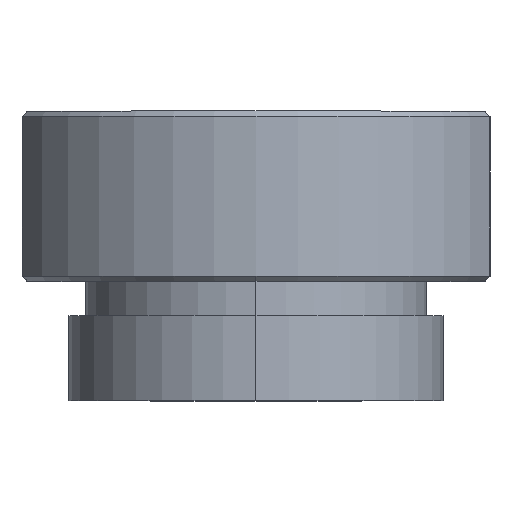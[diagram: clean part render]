
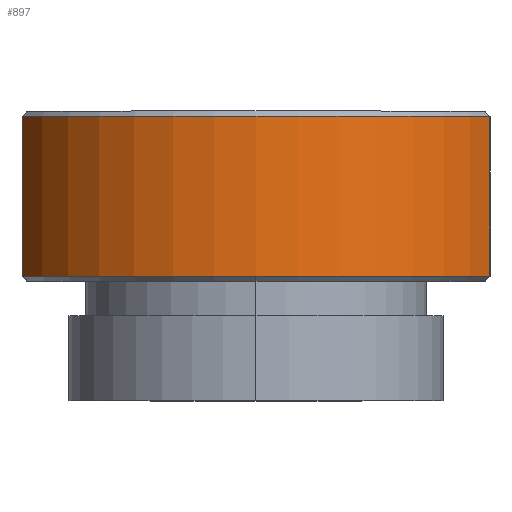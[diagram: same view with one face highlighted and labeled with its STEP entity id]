
A CAD part, top view. The second image highlights one B-rep face of the part: STEP entity #897.
In plain terms, the highlighted cylindrical face has radius 15 mm (diameter 30 mm), a partial arc.
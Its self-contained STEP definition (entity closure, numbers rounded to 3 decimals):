
#49 = LINE ( 'NONE', #857, #904 ) ;
#110 = CYLINDRICAL_SURFACE ( 'NONE', #282, 15. ) ;
#150 = CARTESIAN_POINT ( 'NONE',  ( 13.748, 0.3, 6. ) ) ;
#180 = DIRECTION ( 'NONE',  ( 0., 0., -1. ) ) ;
#208 = ORIENTED_EDGE ( 'NONE', *, *, #596, .T. ) ;
#243 = CIRCLE ( 'NONE', #278, 15. ) ;
#275 = VERTEX_POINT ( 'NONE', #443 ) ;
#278 = AXIS2_PLACEMENT_3D ( 'NONE', #820, #477, #731 ) ;
#282 = AXIS2_PLACEMENT_3D ( 'NONE', #1023, #679, #180 ) ;
#337 = VERTEX_POINT ( 'NONE', #581 ) ;
#351 = AXIS2_PLACEMENT_3D ( 'NONE', #377, #515, #519 ) ;
#366 = EDGE_CURVE ( 'NONE', #611, #408, #243, .T. ) ;
#377 = CARTESIAN_POINT ( 'NONE',  ( 0., 9.7, 0. ) ) ;
#384 = CARTESIAN_POINT ( 'NONE',  ( 0., 0.3, 15. ) ) ;
#408 = VERTEX_POINT ( 'NONE', #150 ) ;
#411 = LINE ( 'NONE', #1076, #826 ) ;
#425 = DIRECTION ( 'NONE',  ( 0., 1., 0. ) ) ;
#436 = CIRCLE ( 'NONE', #351, 15. ) ;
#439 = DIRECTION ( 'NONE',  ( 0., 0., 1. ) ) ;
#443 = CARTESIAN_POINT ( 'NONE',  ( -13.748, 0.3, 6. ) ) ;
#477 = DIRECTION ( 'NONE',  ( 0., 1., 0. ) ) ;
#498 = CIRCLE ( 'NONE', #547, 15. ) ;
#513 = DIRECTION ( 'NONE',  ( 0., 1., 0. ) ) ;
#515 = DIRECTION ( 'NONE',  ( 0., -1., 0. ) ) ;
#519 = DIRECTION ( 'NONE',  ( 0., 0., 1. ) ) ;
#547 = AXIS2_PLACEMENT_3D ( 'NONE', #690, #513, #439 ) ;
#581 = CARTESIAN_POINT ( 'NONE',  ( -13.748, 9.7, 6. ) ) ;
#588 = EDGE_LOOP ( 'NONE', ( #1001, #786, #920, #208, #727 ) ) ;
#596 = EDGE_CURVE ( 'NONE', #408, #675, #411, .T. ) ;
#611 = VERTEX_POINT ( 'NONE', #384 ) ;
#675 = VERTEX_POINT ( 'NONE', #728 ) ;
#679 = DIRECTION ( 'NONE',  ( 0., -1., 0. ) ) ;
#690 = CARTESIAN_POINT ( 'NONE',  ( 0., 0.3, 0. ) ) ;
#703 = FACE_OUTER_BOUND ( 'NONE', #588, .T. ) ;
#715 = DIRECTION ( 'NONE',  ( 0., 1., 0. ) ) ;
#727 = ORIENTED_EDGE ( 'NONE', *, *, #1093, .T. ) ;
#728 = CARTESIAN_POINT ( 'NONE',  ( 13.748, 9.7, 6. ) ) ;
#731 = DIRECTION ( 'NONE',  ( 0., 0., 1. ) ) ;
#786 = ORIENTED_EDGE ( 'NONE', *, *, #1053, .T. ) ;
#820 = CARTESIAN_POINT ( 'NONE',  ( 0., 0.3, 0. ) ) ;
#826 = VECTOR ( 'NONE', #715, 1000. ) ;
#857 = CARTESIAN_POINT ( 'NONE',  ( -13.748, 10., 6. ) ) ;
#897 = ADVANCED_FACE ( 'NONE', ( #703 ), #110, .T. ) ;
#904 = VECTOR ( 'NONE', #425, 1000. ) ;
#913 = EDGE_CURVE ( 'NONE', #275, #337, #49, .T. ) ;
#920 = ORIENTED_EDGE ( 'NONE', *, *, #366, .T. ) ;
#1001 = ORIENTED_EDGE ( 'NONE', *, *, #913, .F. ) ;
#1023 = CARTESIAN_POINT ( 'NONE',  ( 0., 10., 0. ) ) ;
#1053 = EDGE_CURVE ( 'NONE', #275, #611, #498, .T. ) ;
#1076 = CARTESIAN_POINT ( 'NONE',  ( 13.748, 10., 6. ) ) ;
#1093 = EDGE_CURVE ( 'NONE', #675, #337, #436, .T. ) ;
